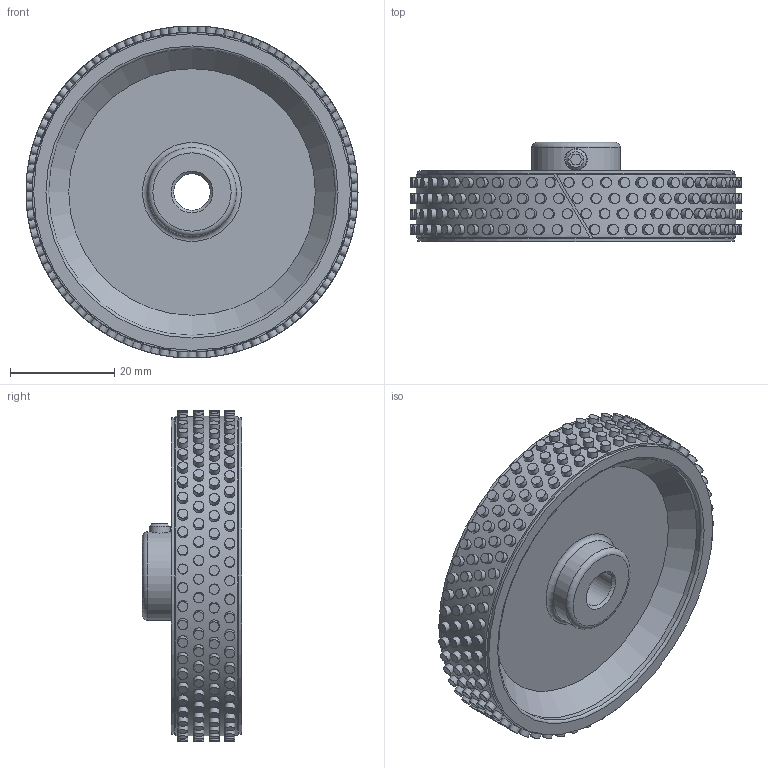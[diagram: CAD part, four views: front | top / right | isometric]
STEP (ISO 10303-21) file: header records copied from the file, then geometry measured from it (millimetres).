
FILE_DESCRIPTION( ( 'Unknown' ), '1' );
FILE_NAME( '//emea.baumernet.org/de01apps/Konstr_Zchng/3D_Zeichnung/Produkte/Messrad/Messräder_09156/Step-Marketing/MR261.07A.stp', 'Unknown', ( 'Unknown' ), ( 'Unknown' ), 'PSStep 19.0.9', 'Unknown', ' ' );
FILE_SCHEMA( ( 'AUTOMOTIVE_DESIGN { 1 0 10303 214 1 1 1 1 }' ) );
Length unit declared in the file: millimetre
Products named in the file (4): Assem1; Gewindestift M4x6 DIN 913; 05507261R; 14700024_Rund
Assembly tree (3 placements, depth 2):
  Assem1
    Gewindestift M4x6 DIN 913
    05507261R
    14700024_Rund
Bounding box: 63.66 x 19 x 63.66 mm (x, y, z)
Volume: 20392.1 mm3; surface area: 17146.8 mm2
Topology: 3 solids, 3 shells, 486 faces, 752 edges, 499 vertices
Faces by surface type: cylinder 452, plane 21, cone 6, torus 6, bspline 1
Full cylindrical faces by diameter (mm): 1.9 x220, 3.242 x1, 4 x1, 7 x1, 17 x2, 55 x2, 59.76 x1, 60.75 x2
Entity records: 22369 total; most frequent: CARTESIAN_POINT 15278, DIRECTION 1076, ORIENTED_EDGE 1006, EDGE_LOOP 960, FACE_OUTER_BOUND 723, AXIS2_PLACEMENT_3D 527, EDGE_CURVE 503, VERTEX_POINT 493
